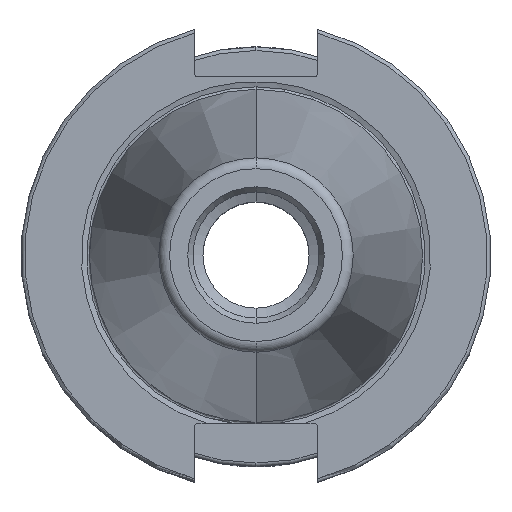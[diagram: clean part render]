
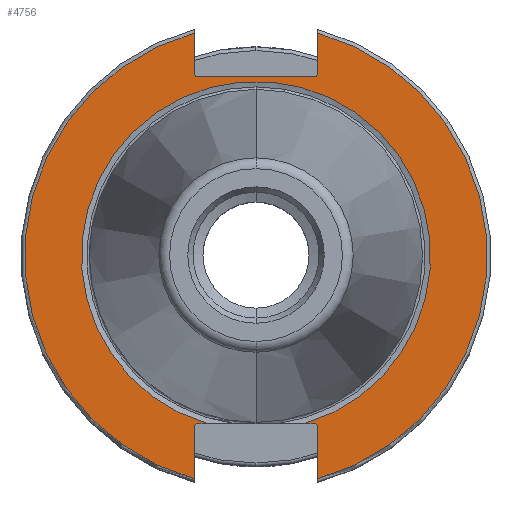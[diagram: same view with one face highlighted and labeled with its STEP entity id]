
A CAD part, top view. The second image highlights one B-rep face of the part: STEP entity #4756.
In plain terms, the highlighted planar face has unit normal (0, 0, 1).
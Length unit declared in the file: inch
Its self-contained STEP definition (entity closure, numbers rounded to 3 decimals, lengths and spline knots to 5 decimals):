
#84 = LINE ( 'NONE', #5999, #7942 ) ;
#133 = CARTESIAN_POINT ( 'NONE',  ( -0.48, 1.5075, -0.125 ) ) ;
#141 = DIRECTION ( 'NONE',  ( 0., -1., 0. ) ) ;
#284 = CARTESIAN_POINT ( 'NONE',  ( 0.40209, -1.3825, -0.125 ) ) ;
#348 = EDGE_CURVE ( 'NONE', #4085, #10444, #13333, .T. ) ;
#568 = CARTESIAN_POINT ( 'NONE',  ( 0.48, -1.4125, -0.125 ) ) ;
#647 = CARTESIAN_POINT ( 'NONE',  ( 0.51, 1.5075, -0.125 ) ) ;
#770 = DIRECTION ( 'NONE',  ( 0., 0., -1. ) ) ;
#1127 = VERTEX_POINT ( 'NONE', #3501 ) ;
#1161 = VERTEX_POINT ( 'NONE', #3346 ) ;
#1540 = VECTOR ( 'NONE', #2313, 39.37008 ) ;
#1827 = ORIENTED_EDGE ( 'NONE', *, *, #6053, .F. ) ;
#1862 = ORIENTED_EDGE ( 'NONE', *, *, #11700, .T. ) ;
#1973 = ORIENTED_EDGE ( 'NONE', *, *, #348, .T. ) ;
#2123 = VERTEX_POINT ( 'NONE', #2177 ) ;
#2177 = CARTESIAN_POINT ( 'NONE',  ( -0.51, 1.5075, -0.125 ) ) ;
#2181 = DIRECTION ( 'NONE',  ( 0., 0., -1. ) ) ;
#2223 = CIRCLE ( 'NONE', #4641, 0.03 ) ;
#2313 = DIRECTION ( 'NONE',  ( 1., 0., 0. ) ) ;
#2336 = VERTEX_POINT ( 'NONE', #10734 ) ;
#2418 = CIRCLE ( 'NONE', #6277, 0.03 ) ;
#2560 = VERTEX_POINT ( 'NONE', #4962 ) ;
#2579 = DIRECTION ( 'NONE',  ( 0., 0., -1. ) ) ;
#2657 = EDGE_CURVE ( 'NONE', #10684, #10670, #5992, .T. ) ;
#2827 = AXIS2_PLACEMENT_3D ( 'NONE', #568, #3989, #11998 ) ;
#2889 = CARTESIAN_POINT ( 'NONE',  ( -0.48, -1.4125, -0.125 ) ) ;
#2948 = DIRECTION ( 'NONE',  ( 0., 1., 0. ) ) ;
#2993 = ORIENTED_EDGE ( 'NONE', *, *, #14258, .T. ) ;
#3221 = CARTESIAN_POINT ( 'NONE',  ( 0.51, 0., -0.125 ) ) ;
#3234 = DIRECTION ( 'NONE',  ( 0., -1., 0. ) ) ;
#3346 = CARTESIAN_POINT ( 'NONE',  ( -0.51, -1.83806, -0.125 ) ) ;
#3480 = ORIENTED_EDGE ( 'NONE', *, *, #13130, .F. ) ;
#3501 = CARTESIAN_POINT ( 'NONE',  ( -0.48, 1.4775, -0.125 ) ) ;
#3743 = DIRECTION ( 'NONE',  ( 1., 0., 0. ) ) ;
#3966 = ORIENTED_EDGE ( 'NONE', *, *, #13364, .T. ) ;
#3989 = DIRECTION ( 'NONE',  ( 0., 0., -1. ) ) ;
#4016 = DIRECTION ( 'NONE',  ( 0., 0., -1. ) ) ;
#4085 = VERTEX_POINT ( 'NONE', #10765 ) ;
#4086 = VECTOR ( 'NONE', #7880, 39.37008 ) ;
#4142 = VERTEX_POINT ( 'NONE', #12244 ) ;
#4201 = VECTOR ( 'NONE', #12535, 39.37008 ) ;
#4228 = CARTESIAN_POINT ( 'NONE',  ( 0., 0., -0.125 ) ) ;
#4474 = PLANE ( 'NONE',  #8380 ) ;
#4612 = CIRCLE ( 'NONE', #8442, 1.9075 ) ;
#4641 = AXIS2_PLACEMENT_3D ( 'NONE', #2889, #13200, #6219 ) ;
#4664 = CARTESIAN_POINT ( 'NONE',  ( -0.51, 1.83806, -0.125 ) ) ;
#4756 = ADVANCED_FACE ( 'NONE', ( #14622 ), #4474, .T. ) ;
#4962 = CARTESIAN_POINT ( 'NONE',  ( -0.48, -1.3825, -0.125 ) ) ;
#5089 = ORIENTED_EDGE ( 'NONE', *, *, #10975, .F. ) ;
#5116 = CARTESIAN_POINT ( 'NONE',  ( 0.51, -1.83806, -0.125 ) ) ;
#5174 = CARTESIAN_POINT ( 'NONE',  ( 0., 0., -0.125 ) ) ;
#5348 = CARTESIAN_POINT ( 'NONE',  ( 1.9075, -1.3825, -0.125 ) ) ;
#5352 = ORIENTED_EDGE ( 'NONE', *, *, #8499, .T. ) ;
#5572 = DIRECTION ( 'NONE',  ( 0., 1., 0. ) ) ;
#5642 = VERTEX_POINT ( 'NONE', #5116 ) ;
#5695 = CARTESIAN_POINT ( 'NONE',  ( 1.9075, -1.3825, -0.125 ) ) ;
#5764 = DIRECTION ( 'NONE',  ( 0., 1., 0. ) ) ;
#5992 = LINE ( 'NONE', #12561, #8533 ) ;
#5999 = CARTESIAN_POINT ( 'NONE',  ( 1.9075, 1.4775, -0.125 ) ) ;
#6053 = EDGE_CURVE ( 'NONE', #10670, #5642, #12725, .T. ) ;
#6160 = CIRCLE ( 'NONE', #13764, 0.03 ) ;
#6219 = DIRECTION ( 'NONE',  ( 0., -1., 0. ) ) ;
#6277 = AXIS2_PLACEMENT_3D ( 'NONE', #6309, #770, #7503 ) ;
#6309 = CARTESIAN_POINT ( 'NONE',  ( 0.48, 1.5075, -0.125 ) ) ;
#6490 = CARTESIAN_POINT ( 'NONE',  ( -0.51, 0., -0.125 ) ) ;
#6636 = VECTOR ( 'NONE', #11324, 39.37008 ) ;
#6637 = LINE ( 'NONE', #5348, #6636 ) ;
#6891 = ORIENTED_EDGE ( 'NONE', *, *, #8332, .T. ) ;
#6958 = ORIENTED_EDGE ( 'NONE', *, *, #11061, .F. ) ;
#7503 = DIRECTION ( 'NONE',  ( 0., -1., 0. ) ) ;
#7880 = DIRECTION ( 'NONE',  ( 0., -1., 0. ) ) ;
#7942 = VECTOR ( 'NONE', #3743, 39.37008 ) ;
#7948 = AXIS2_PLACEMENT_3D ( 'NONE', #4228, #2181, #5572 ) ;
#7989 = CARTESIAN_POINT ( 'NONE',  ( 1.9075, 0., -0.125 ) ) ;
#8014 = LINE ( 'NONE', #5695, #1540 ) ;
#8332 = EDGE_CURVE ( 'NONE', #1127, #2123, #6160, .T. ) ;
#8380 = AXIS2_PLACEMENT_3D ( 'NONE', #7989, #13567, #141 ) ;
#8442 = AXIS2_PLACEMENT_3D ( 'NONE', #5174, #11905, #10994 ) ;
#8499 = EDGE_CURVE ( 'NONE', #10522, #4085, #6637, .T. ) ;
#8533 = VECTOR ( 'NONE', #5764, 39.37008 ) ;
#8576 = CARTESIAN_POINT ( 'NONE',  ( 0.51, 1.83806, -0.125 ) ) ;
#8919 = LINE ( 'NONE', #3221, #4086 ) ;
#8929 = EDGE_CURVE ( 'NONE', #1161, #2336, #12606, .T. ) ;
#9636 = ORIENTED_EDGE ( 'NONE', *, *, #14589, .T. ) ;
#10163 = ORIENTED_EDGE ( 'NONE', *, *, #2657, .F. ) ;
#10444 = VERTEX_POINT ( 'NONE', #13072 ) ;
#10522 = VERTEX_POINT ( 'NONE', #284 ) ;
#10670 = VERTEX_POINT ( 'NONE', #8576 ) ;
#10684 = VERTEX_POINT ( 'NONE', #647 ) ;
#10715 = VERTEX_POINT ( 'NONE', #14666 ) ;
#10734 = CARTESIAN_POINT ( 'NONE',  ( -0.51, -1.4125, -0.125 ) ) ;
#10765 = CARTESIAN_POINT ( 'NONE',  ( 0.48, -1.3825, -0.125 ) ) ;
#10975 = EDGE_CURVE ( 'NONE', #1127, #10715, #84, .T. ) ;
#10994 = DIRECTION ( 'NONE',  ( 0., 1., 0. ) ) ;
#11061 = EDGE_CURVE ( 'NONE', #1161, #12339, #4612, .T. ) ;
#11272 = CARTESIAN_POINT ( 'NONE',  ( -0.51, 0., -0.125 ) ) ;
#11324 = DIRECTION ( 'NONE',  ( 1., 0., 0. ) ) ;
#11509 = CIRCLE ( 'NONE', #13869, 1.43979 ) ;
#11700 = EDGE_CURVE ( 'NONE', #10684, #10715, #2418, .T. ) ;
#11803 = ORIENTED_EDGE ( 'NONE', *, *, #12788, .T. ) ;
#11905 = DIRECTION ( 'NONE',  ( 0., 0., -1. ) ) ;
#11998 = DIRECTION ( 'NONE',  ( 0., -1., 0. ) ) ;
#12244 = CARTESIAN_POINT ( 'NONE',  ( -0.40209, -1.3825, -0.125 ) ) ;
#12306 = CARTESIAN_POINT ( 'NONE',  ( 0., 0., -0.125 ) ) ;
#12339 = VERTEX_POINT ( 'NONE', #4664 ) ;
#12535 = DIRECTION ( 'NONE',  ( 0., 1., 0. ) ) ;
#12561 = CARTESIAN_POINT ( 'NONE',  ( 0.51, 0., -0.125 ) ) ;
#12606 = LINE ( 'NONE', #11272, #4201 ) ;
#12725 = CIRCLE ( 'NONE', #7948, 1.9075 ) ;
#12788 = EDGE_CURVE ( 'NONE', #2336, #2560, #2223, .T. ) ;
#12970 = ORIENTED_EDGE ( 'NONE', *, *, #8929, .T. ) ;
#13072 = CARTESIAN_POINT ( 'NONE',  ( 0.51, -1.4125, -0.125 ) ) ;
#13130 = EDGE_CURVE ( 'NONE', #12339, #2123, #14185, .T. ) ;
#13200 = DIRECTION ( 'NONE',  ( 0., 0., -1. ) ) ;
#13333 = CIRCLE ( 'NONE', #2827, 0.03 ) ;
#13364 = EDGE_CURVE ( 'NONE', #2560, #4142, #8014, .T. ) ;
#13567 = DIRECTION ( 'NONE',  ( 0., 0., 1. ) ) ;
#13764 = AXIS2_PLACEMENT_3D ( 'NONE', #133, #2579, #13794 ) ;
#13794 = DIRECTION ( 'NONE',  ( 0., -1., 0. ) ) ;
#13869 = AXIS2_PLACEMENT_3D ( 'NONE', #12306, #4016, #2948 ) ;
#14185 = LINE ( 'NONE', #6490, #14662 ) ;
#14258 = EDGE_CURVE ( 'NONE', #4142, #10522, #11509, .T. ) ;
#14303 = EDGE_LOOP ( 'NONE', ( #3480, #6958, #12970, #11803, #3966, #2993, #5352, #1973, #9636, #1827, #10163, #1862, #5089, #6891 ) ) ;
#14589 = EDGE_CURVE ( 'NONE', #10444, #5642, #8919, .T. ) ;
#14622 = FACE_OUTER_BOUND ( 'NONE', #14303, .T. ) ;
#14662 = VECTOR ( 'NONE', #3234, 39.37008 ) ;
#14666 = CARTESIAN_POINT ( 'NONE',  ( 0.48, 1.4775, -0.125 ) ) ;
